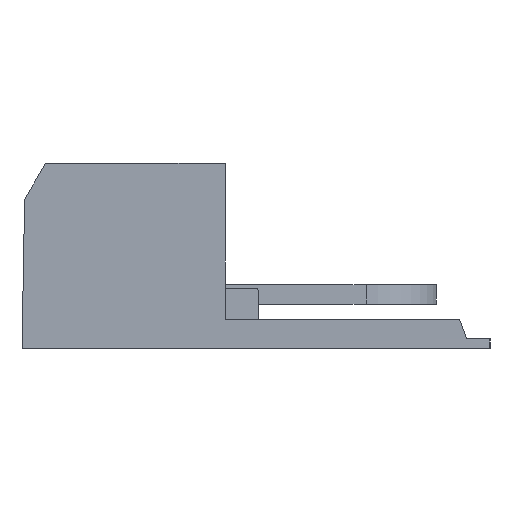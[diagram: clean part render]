
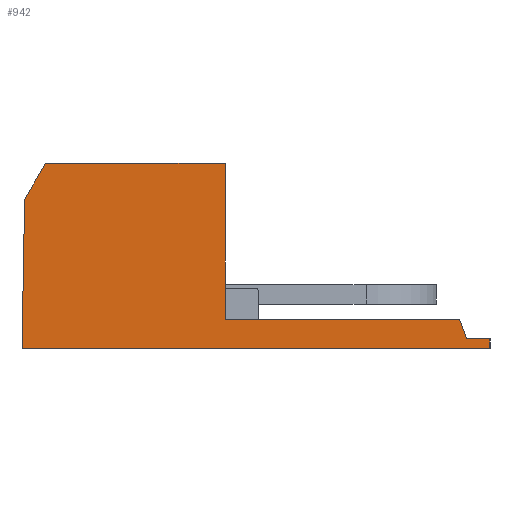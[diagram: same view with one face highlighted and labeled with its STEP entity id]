
A CAD part, left-side view. The second image highlights one B-rep face of the part: STEP entity #942.
In plain terms, the highlighted planar face has unit normal (-1, 0, -0.017) as drawn and (1, 0, 0.017) by its records, which use the part's own axes.
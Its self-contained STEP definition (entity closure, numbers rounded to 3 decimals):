
#169=DIRECTION('',(0.,1.,0.));
#170=VECTOR('',#169,60.15);
#171=CARTESIAN_POINT('',(139.862,-51.178,40.));
#172=LINE('',#171,#170);
#233=DIRECTION('',(-0.016,-0.339,0.941));
#234=VECTOR('',#233,5.315);
#235=CARTESIAN_POINT('',(139.862,-51.178,40.));
#236=LINE('',#235,#234);
#237=DIRECTION('',(-0.01,0.,1.));
#238=VECTOR('',#237,2.5);
#239=CARTESIAN_POINT('',(139.77,-58.978,45.));
#240=LINE('',#239,#238);
#241=DIRECTION('',(0.,1.,0.));
#242=VECTOR('',#241,120.1);
#243=CARTESIAN_POINT('',(139.744,-58.978,47.5));
#244=LINE('',#243,#242);
#245=DIRECTION('',(0.017,-0.017,-1.));
#246=VECTOR('',#245,38.276);
#247=CARTESIAN_POINT('',(139.737,61.122,47.5));
#248=LINE('',#247,#246);
#249=DIRECTION('',(0.015,-0.5,-0.866));
#250=VECTOR('',#249,10.665);
#251=CARTESIAN_POINT('',(140.378,60.454,9.235));
#252=LINE('',#251,#250);
#261=DIRECTION('',(0.017,0.,-1.));
#262=VECTOR('',#261,40.006);
#263=CARTESIAN_POINT('',(139.862,8.972,40.));
#264=LINE('',#263,#262);
#265=DIRECTION('',(0.,1.,0.));
#266=VECTOR('',#265,46.15);
#267=CARTESIAN_POINT('',(140.533,8.972,0.));
#268=LINE('',#267,#266);
#318=DIRECTION('',(0.001,1.,0.));
#319=VECTOR('',#318,6.);
#320=CARTESIAN_POINT('',(139.77,-58.978,45.));
#321=LINE('',#320,#319);
#595=CARTESIAN_POINT('',(139.862,-51.178,40.));
#596=CARTESIAN_POINT('',(139.862,8.972,40.));
#597=VERTEX_POINT('',#595);
#598=VERTEX_POINT('',#596);
#649=CARTESIAN_POINT('',(140.533,8.972,0.));
#650=VERTEX_POINT('',#649);
#651=CARTESIAN_POINT('',(139.777,-52.978,45.));
#652=VERTEX_POINT('',#651);
#653=CARTESIAN_POINT('',(139.77,-58.978,45.));
#654=VERTEX_POINT('',#653);
#655=CARTESIAN_POINT('',(139.744,-58.978,47.5));
#656=VERTEX_POINT('',#655);
#657=CARTESIAN_POINT('',(139.737,61.122,47.5));
#658=VERTEX_POINT('',#657);
#659=CARTESIAN_POINT('',(140.378,60.454,9.235));
#660=VERTEX_POINT('',#659);
#661=CARTESIAN_POINT('',(140.533,55.122,0.));
#662=VERTEX_POINT('',#661);
#918=CARTESIAN_POINT('',(140.134,1.072,23.75));
#919=DIRECTION('',(1.,0.,0.017));
#920=DIRECTION('',(0.,1.,0.));
#921=AXIS2_PLACEMENT_3D('',#918,#919,#920);
#922=PLANE('',#921);
#924=ORIENTED_EDGE('',*,*,#923,.F.);
#925=ORIENTED_EDGE('',*,*,#855,.F.);
#927=ORIENTED_EDGE('',*,*,#926,.T.);
#929=ORIENTED_EDGE('',*,*,#928,.F.);
#931=ORIENTED_EDGE('',*,*,#930,.T.);
#933=ORIENTED_EDGE('',*,*,#932,.T.);
#935=ORIENTED_EDGE('',*,*,#934,.T.);
#937=ORIENTED_EDGE('',*,*,#936,.T.);
#939=ORIENTED_EDGE('',*,*,#938,.F.);
#940=EDGE_LOOP('',(#924,#925,#927,#929,#931,#933,#935,#937,#939));
#941=FACE_OUTER_BOUND('',#940,.F.);
#942=ADVANCED_FACE('',(#941),#922,.T.);
#855=EDGE_CURVE('',#597,#598,#172,.T.);
#923=EDGE_CURVE('',#598,#650,#264,.T.);
#926=EDGE_CURVE('',#597,#652,#236,.T.);
#928=EDGE_CURVE('',#654,#652,#321,.T.);
#930=EDGE_CURVE('',#654,#656,#240,.T.);
#932=EDGE_CURVE('',#656,#658,#244,.T.);
#934=EDGE_CURVE('',#658,#660,#248,.T.);
#936=EDGE_CURVE('',#660,#662,#252,.T.);
#938=EDGE_CURVE('',#650,#662,#268,.T.);
